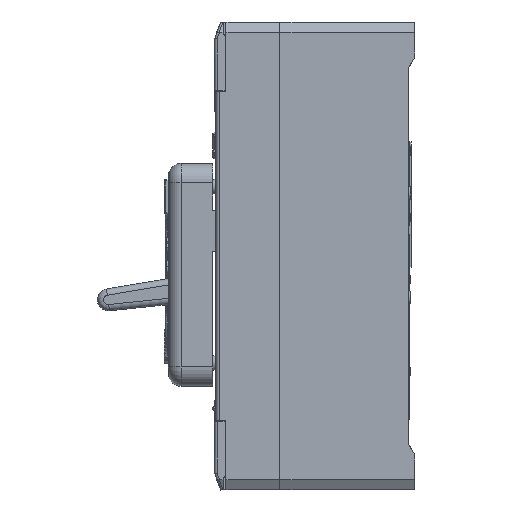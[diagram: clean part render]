
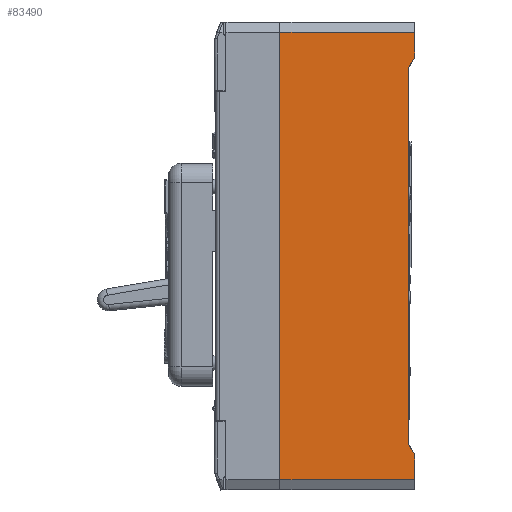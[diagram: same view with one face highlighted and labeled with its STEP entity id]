
A CAD part, left-side view. The second image highlights one B-rep face of the part: STEP entity #83490.
In plain terms, the highlighted planar face has unit normal (-1, 0, 0).
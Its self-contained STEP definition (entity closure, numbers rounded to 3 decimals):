
#1953 = EDGE_LOOP ( 'NONE', ( #9726, #9729, #9730, #9733, #9736, #9738, #9742, #9744 ) ) ;
#8775 = CARTESIAN_POINT ( 'NONE',  ( -116.374, 31.96, -109.6 ) ) ;
#8812 = CARTESIAN_POINT ( 'NONE',  ( -116.374, -32.49, -104.6 ) ) ;
#8816 = DIRECTION ( 'NONE',  ( 0., -1., 0. ) ) ;
#8819 = DIRECTION ( 'NONE',  ( 0., 0., 1. ) ) ;
#8824 = CARTESIAN_POINT ( 'NONE',  ( -116.374, -32.49, 109.17 ) ) ;
#8829 = DIRECTION ( 'NONE',  ( 0., 1., 0. ) ) ;
#9402 = CARTESIAN_POINT ( 'NONE',  ( -116.374, 57.136, -57.855 ) ) ;
#9431 = DIRECTION ( 'NONE',  ( 0., 0.5, -0.866 ) ) ;
#9444 = CARTESIAN_POINT ( 'NONE',  ( -116.374, -32.49, -109.6 ) ) ;
#9449 = DIRECTION ( 'NONE',  ( 0., 0., 1. ) ) ;
#9454 = CARTESIAN_POINT ( 'NONE',  ( -116.374, -32.49, -109.6 ) ) ;
#9473 = CARTESIAN_POINT ( 'NONE',  ( -116.374, -39.76, -105.403 ) ) ;
#9479 = DIRECTION ( 'NONE',  ( 0., -0.5, -0.866 ) ) ;
#9494 = DIRECTION ( 'NONE',  ( 0., 0., 1. ) ) ;
#9726 = ORIENTED_EDGE ( 'NONE', *, *, #42392, .F. ) ;
#9729 = ORIENTED_EDGE ( 'NONE', *, *, #42396, .T. ) ;
#9730 = ORIENTED_EDGE ( 'NONE', *, *, #42225, .T. ) ;
#9733 = ORIENTED_EDGE ( 'NONE', *, *, #42223, .F. ) ;
#9736 = ORIENTED_EDGE ( 'NONE', *, *, #42220, .T. ) ;
#9738 = ORIENTED_EDGE ( 'NONE', *, *, #42411, .T. ) ;
#9742 = ORIENTED_EDGE ( 'NONE', *, *, #42405, .F. ) ;
#9744 = ORIENTED_EDGE ( 'NONE', *, *, #35444, .F. ) ;
#20651 = AXIS2_PLACEMENT_3D ( 'NONE', #62241, #62246, #62247 ) ;
#32833 = LINE ( 'NONE', #66417, #32840 ) ;
#32840 = VECTOR ( 'NONE', #66429, 1000. ) ;
#35444 = EDGE_CURVE ( 'NONE', #86662, #86642, #32833, .T. ) ;
#40760 = LINE ( 'NONE', #8775, #40773 ) ;
#40764 = LINE ( 'NONE', #8812, #40770 ) ;
#40770 = VECTOR ( 'NONE', #8816, 1000. ) ;
#40771 = LINE ( 'NONE', #8824, #40777 ) ;
#40773 = VECTOR ( 'NONE', #8819, 1000. ) ;
#40777 = VECTOR ( 'NONE', #8829, 1000. ) ;
#41032 = LINE ( 'NONE', #9402, #41051 ) ;
#41051 = VECTOR ( 'NONE', #9431, 1000. ) ;
#41052 = LINE ( 'NONE', #9444, #41058 ) ;
#41058 = VECTOR ( 'NONE', #9449, 1000. ) ;
#41067 = LINE ( 'NONE', #9473, #41073 ) ;
#41071 = LINE ( 'NONE', #9454, #41084 ) ;
#41073 = VECTOR ( 'NONE', #9479, 1000. ) ;
#41084 = VECTOR ( 'NONE', #9494, 1000. ) ;
#42220 = EDGE_CURVE ( 'NONE', #86507, #86519, #40764, .T. ) ;
#42223 = EDGE_CURVE ( 'NONE', #86507, #87027, #40760, .T. ) ;
#42225 = EDGE_CURVE ( 'NONE', #86775, #87027, #40771, .T. ) ;
#42392 = EDGE_CURVE ( 'NONE', #87118, #86662, #41032, .T. ) ;
#42396 = EDGE_CURVE ( 'NONE', #87118, #86775, #41052, .T. ) ;
#42405 = EDGE_CURVE ( 'NONE', #86642, #87316, #41067, .T. ) ;
#42411 = EDGE_CURVE ( 'NONE', #86519, #87316, #41071, .T. ) ;
#50966 = FACE_OUTER_BOUND ( 'NONE', #1953, .T. ) ;
#62241 = CARTESIAN_POINT ( 'NONE',  ( -116.374, -32.49, -109.6 ) ) ;
#62242 = PLANE ( 'NONE',  #20651 ) ;
#62246 = DIRECTION ( 'NONE',  ( -1., 0., 0. ) ) ;
#62247 = DIRECTION ( 'NONE',  ( 0., 0., 1. ) ) ;
#66417 = CARTESIAN_POINT ( 'NONE',  ( -116.374, -29.49, -109.6 ) ) ;
#66429 = DIRECTION ( 'NONE',  ( 0., 0., -1. ) ) ;
#83490 = ADVANCED_FACE ( 'NONE', ( #50966 ), #62242, .T. ) ;
#86507 = VERTEX_POINT ( 'NONE', #109939 ) ;
#86519 = VERTEX_POINT ( 'NONE', #109944 ) ;
#86642 = VERTEX_POINT ( 'NONE', #109976 ) ;
#86662 = VERTEX_POINT ( 'NONE', #109983 ) ;
#86775 = VERTEX_POINT ( 'NONE', #110090 ) ;
#87027 = VERTEX_POINT ( 'NONE', #110293 ) ;
#87118 = VERTEX_POINT ( 'NONE', #110343 ) ;
#87316 = VERTEX_POINT ( 'NONE', #110461 ) ;
#109939 = CARTESIAN_POINT ( 'NONE',  ( -116.374, 31.96, -104.6 ) ) ;
#109944 = CARTESIAN_POINT ( 'NONE',  ( -116.374, -32.49, -104.6 ) ) ;
#109976 = CARTESIAN_POINT ( 'NONE',  ( -116.374, -29.49, -87.615 ) ) ;
#109983 = CARTESIAN_POINT ( 'NONE',  ( -116.374, -29.49, 92.185 ) ) ;
#110090 = CARTESIAN_POINT ( 'NONE',  ( -116.374, -32.49, 109.17 ) ) ;
#110293 = CARTESIAN_POINT ( 'NONE',  ( -116.374, 31.96, 109.17 ) ) ;
#110343 = CARTESIAN_POINT ( 'NONE',  ( -116.374, -32.49, 97.381 ) ) ;
#110461 = CARTESIAN_POINT ( 'NONE',  ( -116.374, -32.49, -92.811 ) ) ;
